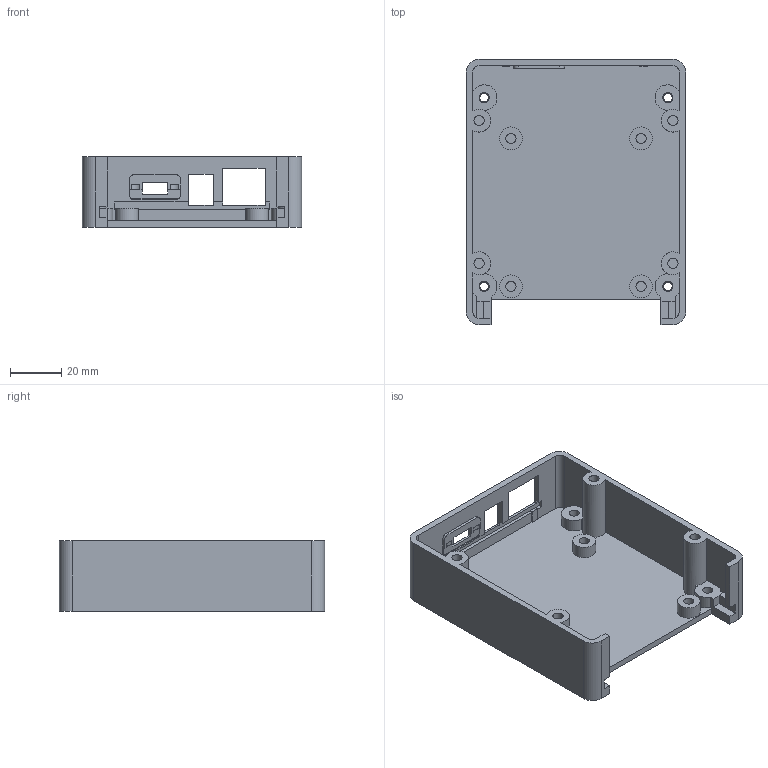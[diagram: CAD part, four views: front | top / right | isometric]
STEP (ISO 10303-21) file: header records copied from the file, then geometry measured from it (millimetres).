
FILE_DESCRIPTION(/* description */ (''),/* implementation_level */ '2;1');
FILE_NAME(/* name */ 'carrier-bottom.step',/* time_stamp */ '2026-09-11T16:31:20-07:00',/* author */ (''),/* organization */ (''),/* preprocessor_version */ 'ST-DEVELOPER v20.1',/* originating_system */ 'Autodesk Translation Framework v15.8.0.0',/* authorisation */ '');
FILE_SCHEMA (('AUTOMOTIVE_DESIGN { 1 0 10303 214 3 1 1 }'));
Length unit declared in the file: centimetre
Products named in the file (1): 01 Bottom shell - hidden mounting inserts
Bounding box: 86 x 104 x 27.6 mm (x, y, z)
Volume: 45465 mm3; surface area: 35090 mm2
Topology: 1 solids, 1 shells, 173 faces, 466 edges, 310 vertices
Faces by surface type: plane 111, cylinder 62
Full cylindrical faces by diameter (mm): 3.4 x4, 4 x12, 9 x4
Entity records: 5510 total; most frequent: CARTESIAN_POINT 960, DIRECTION 944, ORIENTED_EDGE 932, EDGE_CURVE 466, LINE 332, VECTOR 332, VERTEX_POINT 310, AXIS2_PLACEMENT_3D 306
